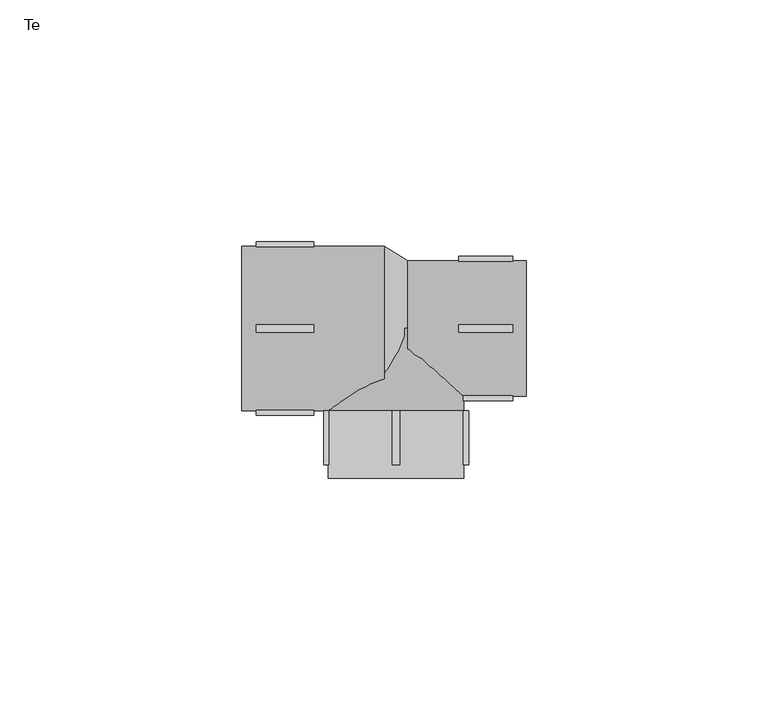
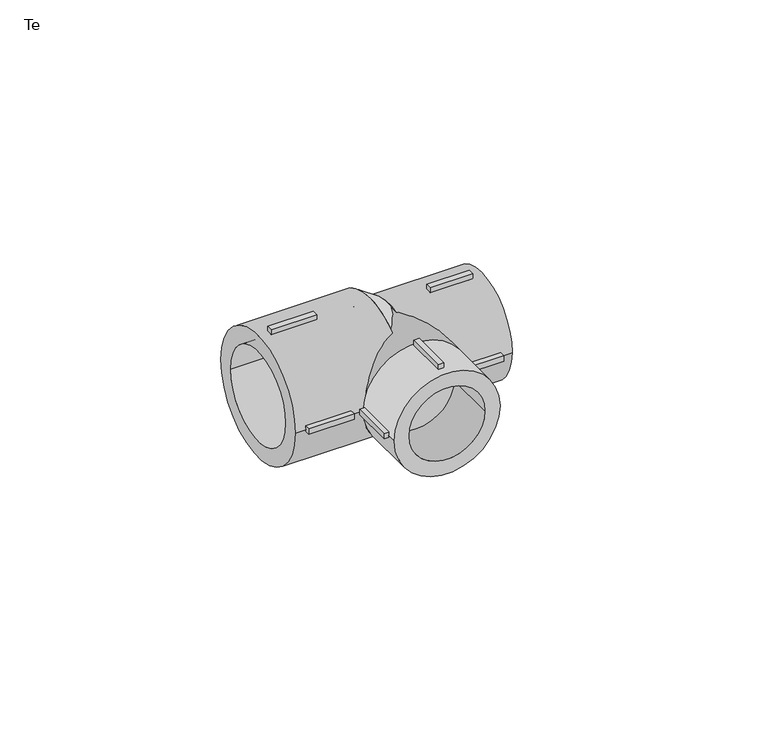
"""IFC4 building model written with IfcOpenShell, lengths in millimetres: pipe fitting geometry, EGB_VASEN_ PPR_Te WXR300_Te reducida WXR310 : Te."""

import ifcopenshell
import ifcopenshell.guid

model = None  # the IFC model being written
_history = None  # IfcOwnerHistory: only IFC2X3 demands one
_inside = {}  # id of a spatial element -> (the spatial element, [elements in it])
_under = {}  # id of a project, library or spatial element -> (it, [spatial elements below it])
_declared = {}  # id of a project -> (the project, [libraries it declares])
_typed = {}  # id of a type object -> (the type object, [elements of that type])
_made_of = {}  # id of a material, layer set ... -> (it, [elements and type objects made of it])


def new_model(schema):
    """Start an empty IFC model of exactly this schema.

    Asked for "IFC4X3", IfcOpenShell would pick the latest addendum, in which some entities
    have other attributes; the version numbers below select the first issue.
    IFC2X3 requires an IfcOwnerHistory on every rooted entity: one is made here for all.
    """
    global model, _history
    if schema == "IFC4X3":
        model = ifcopenshell.file(schema_version=(4, 3, 0, 0))
    else:
        model = ifcopenshell.file(schema=schema)
    _inside.clear()
    _under.clear()
    _declared.clear()
    _typed.clear()
    _made_of.clear()
    _history = None
    if model.schema == "IFC2X3":
        org = make("IfcOrganization", Name="unknown")
        user = make(
            "IfcPersonAndOrganization",
            ThePerson=make("IfcPerson", FamilyName="unknown"),
            TheOrganization=org,
        )
        app = make(
            "IfcApplication",
            ApplicationDeveloper=org,
            Version="unknown",
            ApplicationFullName="unknown",
            ApplicationIdentifier="unknown",
        )
        _history = make(
            "IfcOwnerHistory",
            OwningUser=user,
            OwningApplication=app,
            ChangeAction="ADDED",
            CreationDate=0,
        )
    return model


def make(cls, **values):
    """One entity of the class cls with the attributes given. An attribute that is None is left unset."""
    return model.create_entity(
        cls, **{name: value for name, value in values.items() if value is not None}
    )


def rooted(cls, **values):
    """An entity with a GlobalId (a new one), such as an element, a storey or a relation."""
    return make(cls, GlobalId=ifcopenshell.guid.new(), OwnerHistory=_history, **values)


def si_unit(unit_type, name, prefix=None):
    """IfcSIUnit, for example si_unit("LENGTHUNIT", "METRE", prefix="MILLI")."""
    return make("IfcSIUnit", UnitType=unit_type, Prefix=prefix, Name=name)


def assignment(units):
    """IfcUnitAssignment: the units of a project."""
    return None if units is None else make("IfcUnitAssignment", Units=units)


def point(xyz):
    """IfcCartesianPoint."""
    return None if xyz is None else make("IfcCartesianPoint", Coordinates=xyz)


def direction(xyz):
    """IfcDirection."""
    return None if xyz is None else make("IfcDirection", DirectionRatios=xyz)


def frame(location, z_axis=None, x_axis=None):
    """IfcAxis2Placement3D, a coordinate frame: its origin and axes. An axis left out is left unset."""
    return make(
        "IfcAxis2Placement3D",
        Location=point(location),
        Axis=direction(z_axis),
        RefDirection=direction(x_axis),
    )


def frame_2d(location, x_axis=None):
    """IfcAxis2Placement2D, a coordinate frame in the plane: its origin and x axis."""
    return make(
        "IfcAxis2Placement2D", Location=point(location), RefDirection=direction(x_axis)
    )


def origin():
    """The frame at (0, 0, 0) with its axes left unset."""
    return frame((0.0, 0.0, 0.0))


def origin_2d():
    """The frame at (0, 0) in the plane with its x axis left unset."""
    return frame_2d((0.0, 0.0))


def place(relative_to, where):
    """IfcLocalPlacement: puts the frame where relative to a parent placement (None: the world)."""
    return make(
        "IfcLocalPlacement", PlacementRelTo=relative_to, RelativePlacement=where
    )


def context(
    kind, dimensions, precision=None, world=None, true_north=None, identifier=None
):
    """IfcGeometricRepresentationContext, for example the 3D "Model" context."""
    return make(
        "IfcGeometricRepresentationContext",
        ContextIdentifier=identifier,
        ContextType=kind,
        CoordinateSpaceDimension=dimensions,
        Precision=precision,
        WorldCoordinateSystem=world,
        TrueNorth=true_north,
    )


def project(units=None, contexts=None):
    """IfcProject with its units and contexts."""
    return rooted(
        "IfcProject",
        Name="project",
        RepresentationContexts=contexts,
        UnitsInContext=assignment(units),
    )


def spatial(cls, under=None, at=None, **own):
    """A site, building, storey or space (cls), placed at a placement, below another one or the project."""
    s = rooted(cls, ObjectPlacement=at, **own)
    if under is not None:
        _under.setdefault(under.id(), (under, []))[1].append(s)
    return s


def polyline(points):
    """IfcPolyline through the points."""
    return make("IfcPolyline", Points=[point(p) for p in points])


def circle_curve(where, radius):
    """IfcCircle in the frame where."""
    return make("IfcCircle", Position=where, Radius=radius)


def trimmed(basis, trim1, trim2, sense, master):
    """IfcTrimmedCurve: the piece of a basis curve between two trims."""
    return make(
        "IfcTrimmedCurve",
        BasisCurve=basis,
        Trim1=trim1,
        Trim2=trim2,
        SenseAgreement=sense,
        MasterRepresentation=master,
    )


def segment(curve, same_sense, transition):
    """IfcCompositeCurveSegment."""
    return make(
        "IfcCompositeCurveSegment",
        Transition=transition,
        SameSense=same_sense,
        ParentCurve=curve,
    )


def composite_curve(segments, self_intersect=None):
    """IfcCompositeCurve: segments joined end to end."""
    return make("IfcCompositeCurve", Segments=segments, SelfIntersect=self_intersect)


def outline(outer, holes=None, kind="AREA"):
    """IfcArbitraryClosedProfileDef: a profile drawn as a closed curve; with holes, ...WithVoids."""
    if holes is None:
        return make("IfcArbitraryClosedProfileDef", ProfileType=kind, OuterCurve=outer)
    return make(
        "IfcArbitraryProfileDefWithVoids",
        ProfileType=kind,
        OuterCurve=outer,
        InnerCurves=holes,
    )


def extrude(swept, where, along, depth):
    """IfcExtrudedAreaSolid: the profile swept, set in the frame where, extruded along a direction by depth."""
    return make(
        "IfcExtrudedAreaSolid",
        SweptArea=swept,
        Position=where,
        ExtrudedDirection=direction(along),
        Depth=depth,
    )


def shape(context_of_items, identifier, shape_type, items):
    """IfcShapeRepresentation: the items that make up one representation, for example the "Body"."""
    return make(
        "IfcShapeRepresentation",
        ContextOfItems=context_of_items,
        RepresentationIdentifier=identifier,
        RepresentationType=shape_type,
        Items=items,
    )


def source(mapping_origin, context_of_items, identifier, shape_type, items):
    """IfcRepresentationMap: a shape defined once, which mapped items show again and again."""
    return make(
        "IfcRepresentationMap",
        MappingOrigin=mapping_origin,
        MappedRepresentation=shape(context_of_items, identifier, shape_type, items),
    )


def transform(
    local_origin,
    x_axis=None,
    y_axis=None,
    z_axis=None,
    scale=None,
    scale2=None,
    scale3=None,
    uniform=True,
):
    """IfcCartesianTransformationOperator3D, or its non-uniform kind. x_axis, y_axis, z_axis: its Axis1, 2, 3."""
    if uniform:
        return make(
            "IfcCartesianTransformationOperator3D",
            Axis1=direction(x_axis),
            Axis2=direction(y_axis),
            LocalOrigin=point(local_origin),
            Scale=scale,
            Axis3=direction(z_axis),
        )
    return make(
        "IfcCartesianTransformationOperator3DnonUniform",
        Axis1=direction(x_axis),
        Axis2=direction(y_axis),
        LocalOrigin=point(local_origin),
        Scale=scale,
        Axis3=direction(z_axis),
        Scale2=scale2,
        Scale3=scale3,
    )


def mapped(mapping_source, mapping_target):
    """IfcMappedItem: shows the shape of a source again, moved by a transform."""
    return make(
        "IfcMappedItem", MappingSource=mapping_source, MappingTarget=mapping_target
    )


def made_of(thing, what):
    """Note that an element or type object is made of a material, layer set ...; save() writes the relation."""
    if what is not None:
        _made_of.setdefault(what.id(), (what, []))[1].append(thing)
    return thing


def element(
    cls,
    number,
    at=None,
    inside=None,
    cuts=None,
    type_object=None,
    material=None,
    context=None,
    identifier="Body",
    shape_type=None,
    held_by="IfcProductDefinitionShape",
    body=None,
    shapes=None,
    **own,
):
    """One element of the class cls, such as IfcWall. Its Tag is "e" and its number.

    at: its placement. inside: the storey or other place that contains it. cuts: it is an
    opening in that element (IfcRelVoidsElement). A single representation is given by context,
    identifier, shape_type and body (its items); several are given by shapes. held_by: the class
    of the entity that holds the representations. save() writes the other relations.
    """
    e = rooted(cls, Tag="e%d" % number, ObjectPlacement=at, **own)
    if body is not None:
        shapes = [shape(context, identifier, shape_type, body)]
    if shapes is not None:
        e.Representation = make(held_by, Representations=shapes)
    if inside is not None:
        _inside.setdefault(inside.id(), (inside, []))[1].append(e)
    if cuts is not None:
        rooted(
            "IfcRelVoidsElement", RelatingBuildingElement=cuts, RelatedOpeningElement=e
        )
    if type_object is not None:
        _typed.setdefault(type_object.id(), (type_object, []))[1].append(e)
    return made_of(e, material)


def aggregate(whole, parts):
    """IfcRelAggregates: a whole, such as a stair, and the parts it consists of."""
    return rooted("IfcRelAggregates", RelatingObject=whole, RelatedObjects=parts)


def save(model, path):
    """Write the relations noted so far, then the file.

    IfcRelAggregates (storeys below a building ...), IfcRelContainedInSpatialStructure (elements
    in a storey), IfcRelDefinesByType, IfcRelAssociatesMaterial and IfcRelDeclares: one each for
    every whole, place, type object, material and project.
    """
    for whole, parts in _under.values():
        aggregate(whole, parts)
    for where, things in _inside.values():
        rooted(
            "IfcRelContainedInSpatialStructure",
            RelatedElements=things,
            RelatingStructure=where,
        )
    for kind, things in _typed.values():
        rooted("IfcRelDefinesByType", RelatedObjects=things, RelatingType=kind)
    for what, things in _made_of.values():
        rooted("IfcRelAssociatesMaterial", RelatedObjects=things, RelatingMaterial=what)
    for by, libraries in _declared.values():
        rooted("IfcRelDeclares", RelatingContext=by, RelatedDefinitions=libraries)
    model.write(path)


def plane_surface(at):
    """IfcPlane: the flat surface through the origin of the frame at, square to its z axis."""
    return make("IfcPlane", Position=at)


def revolved_surface(curve, axis_point, axis_direction):
    """IfcSurfaceOfRevolution: the curve turned about the line through axis_point along axis_direction."""
    return make(
        "IfcSurfaceOfRevolution",
        SweptCurve=make("IfcArbitraryOpenProfileDef", ProfileType="CURVE", Curve=curve),
        AxisPosition=make("IfcAxis1Placement", Location=point(axis_point), Axis=direction(axis_direction)),
    )


def advanced_brep(points, edges, surfaces, faces):
    """IfcAdvancedBrep: a solid bounded by faces that lie on surfaces and meet in shared edges.

    An edge is (start, end): straight between two places in points (the first is 0);
    or (start, end, curve); or (start, end, curve, False) where it runs against its curve.
    A face is (place in surfaces, loops), or (place, loops, False) where it looks against
    its surface's normal. A loop lists edges by number (the first is 1), with a minus sign
    where the edge is run from its end to its start. The first loop is the outer one.
    """
    corners = [point(p) for p in points]
    vertices = [make("IfcVertexPoint", VertexGeometry=c) for c in corners]
    made = []
    for start, end, *more in edges:
        made.append(
            make(
                "IfcEdgeCurve",
                EdgeStart=vertices[start],
                EdgeEnd=vertices[end],
                EdgeGeometry=more[0] if more else make("IfcPolyline", Points=[corners[start], corners[end]]),
                SameSense=more[1] if len(more) > 1 else True,
            )
        )
    hull = []
    for where, loops, *sense in faces:
        bounds = []
        for j, loop in enumerate(loops):
            ring = [make("IfcOrientedEdge", EdgeElement=made[abs(k) - 1], Orientation=k > 0) for k in loop]
            bounds.append(
                make(
                    "IfcFaceOuterBound" if j == 0 else "IfcFaceBound",
                    Bound=make("IfcEdgeLoop", EdgeList=ring),
                    Orientation=True,
                )
            )
        hull.append(make("IfcAdvancedFace", Bounds=bounds, FaceSurface=surfaces[where], SameSense=sense[0] if sense else True))
    return make("IfcAdvancedBrep", Outer=make("IfcClosedShell", CfsFaces=hull))


def te_86af53af(model_context):
    return source(origin(), model_context, "Body", "SolidModel", [
        extrude(outline(polyline([(-0.75, -17.0), (0.75, -17.0), (0.75, -28.2), (-0.75, -28.2), (-0.75, -17.0)])), frame((0.0, 0.0, 13.0), z_axis=(0.0, 0.0, 1.0), x_axis=(1.0, 0.0, 0.0)), (0.0, 0.0, 1.0), 2.0),
        extrude(outline(polyline([(-0.75, -17.0), (0.75, -17.0), (0.75, -28.2), (-0.75, -28.2), (-0.75, -17.0)])), frame((0.0, 0.0, -15.0), z_axis=(0.0, 0.0, 1.0), x_axis=(1.0, 0.0, 0.0)), (0.0, 0.0, 1.0), 2.0),
        extrude(outline(polyline([(13.0, -17.0), (15.0, -17.0), (15.0, -28.2), (13.0, -28.2), (13.0, -17.0)])), frame((0.0, 0.0, -0.75), z_axis=(0.0, 0.0, 1.0), x_axis=(1.0, 0.0, 0.0)), (0.0, 0.0, 1.0), 1.5),
        extrude(outline(polyline([(-15.0, -17.0), (-13.0, -17.0), (-13.0, -28.2), (-15.0, -28.2), (-15.0, -17.0)])), frame((0.0, 0.0, -0.75), z_axis=(0.0, 0.0, 1.0), x_axis=(1.0, 0.0, 0.0)), (0.0, 0.0, 1.0), 1.5),
        extrude(outline(polyline([(13.0, -0.75), (13.0, 0.75), (24.2, 0.75), (24.2, -0.75), (13.0, -0.75)])), frame((0.0, 0.0, 13.0), z_axis=(0.0, 0.0, 1.0), x_axis=(1.0, 0.0, 0.0)), (0.0, 0.0, 1.0), 2.0),
        extrude(outline(polyline([(13.0, -0.75), (13.0, 0.75), (24.2, 0.75), (24.2, -0.75), (13.0, -0.75)])), frame((0.0, 0.0, -15.0), z_axis=(0.0, 0.0, 1.0), x_axis=(1.0, 0.0, 0.0)), (0.0, 0.0, 1.0), 2.0),
        extrude(outline(polyline([(13.0, 13.0), (13.0, 15.0), (24.2, 15.0), (24.2, 13.0), (13.0, 13.0)])), frame((0.0, 0.0, -0.75), z_axis=(0.0, 0.0, 1.0), x_axis=(1.0, 0.0, 0.0)), (0.0, 0.0, 1.0), 1.5),
        extrude(outline(polyline([(13.0, -15.0), (13.0, -13.0), (24.2, -13.0), (24.2, -15.0), (13.0, -15.0)])), frame((0.0, 0.0, -0.75), z_axis=(0.0, 0.0, 1.0), x_axis=(1.0, 0.0, 0.0)), (0.0, 0.0, 1.0), 1.5),
        extrude(outline(polyline([(-17.0, 0.75), (-17.0, -0.75), (-29.0, -0.75), (-29.0, 0.75), (-17.0, 0.75)])), frame((0.0, 0.0, 16.0), z_axis=(0.0, 0.0, 1.0), x_axis=(1.0, 0.0, 0.0)), (0.0, 0.0, 1.0), 2.0),
        extrude(outline(polyline([(-17.0, 0.75), (-17.0, -0.75), (-29.0, -0.75), (-29.0, 0.75), (-17.0, 0.75)])), frame((0.0, 0.0, -18.0), z_axis=(0.0, 0.0, 1.0), x_axis=(1.0, 0.0, 0.0)), (0.0, 0.0, 1.0), 2.0),
        extrude(outline(polyline([(-17.0, 18.0), (-17.0, 16.0), (-29.0, 16.0), (-29.0, 18.0), (-17.0, 18.0)])), frame((0.0, 0.0, -0.75), z_axis=(0.0, 0.0, 1.0), x_axis=(1.0, 0.0, 0.0)), (0.0, 0.0, 1.0), 1.5),
        extrude(outline(polyline([(-17.0, -16.0), (-17.0, -18.0), (-29.0, -18.0), (-29.0, -16.0), (-17.0, -16.0)])), frame((0.0, 0.0, -0.75), z_axis=(0.0, 0.0, 1.0), x_axis=(1.0, 0.0, 0.0)), (0.0, 0.0, 1.0), 1.5),
        extrude(outline(composite_curve([segment(trimmed(circle_curve(origin_2d(), 14.0), [point((0.0, 14.0))], [point((0.0, -14.0))], False, "CARTESIAN"), True, "CONTINUOUS"), segment(trimmed(circle_curve(origin_2d(), 14.0), [point((0.0, -14.0))], [point((0.0, 14.0))], False, "CARTESIAN"), True, "CONTINUOUS")], self_intersect=False), holes=[composite_curve([segment(trimmed(circle_curve(origin_2d(), 10.0), [point((0.0, 10.0))], [point((0.0, -10.0))], True, "CARTESIAN"), True, "CONTINUOUS"), segment(trimmed(circle_curve(origin_2d(), 10.0), [point((0.0, -10.0))], [point((0.0, 10.0))], True, "CARTESIAN"), True, "CONTINUOUS")], self_intersect=False)]), frame((0.0, -31.0, 0.0), z_axis=(0.0, 1.0, 0.0), x_axis=(0.0, 0.0, 1.0)), (0.0, 0.0, 1.0), 14.0),
        extrude(outline(composite_curve([segment(trimmed(circle_curve(origin_2d(), 14.0), [point((-14.0, 0.0))], [point((14.0, 0.0))], False, "CARTESIAN"), True, "CONTINUOUS"), segment(trimmed(circle_curve(origin_2d(), 14.0), [point((14.0, 0.0))], [point((-14.0, 0.0))], False, "CARTESIAN"), True, "CONTINUOUS")], self_intersect=False), holes=[composite_curve([segment(trimmed(circle_curve(origin_2d(), 10.0), [point((-10.0, 0.0))], [point((10.0, 0.0))], True, "CARTESIAN"), True, "CONTINUOUS"), segment(trimmed(circle_curve(origin_2d(), 10.0), [point((10.0, 0.0))], [point((-10.0, 0.0))], True, "CARTESIAN"), True, "CONTINUOUS")], self_intersect=False)]), frame((2.4, 0.0, 0.0), z_axis=(1.0, 0.0, 0.0), x_axis=(0.0, 1.0, 0.0)), (0.0, 0.0, 1.0), 24.6),
        extrude(outline(composite_curve([segment(trimmed(circle_curve(origin_2d(), 17.0), [point((-17.0, 0.0))], [point((17.0, 0.0))], False, "CARTESIAN"), True, "CONTINUOUS"), segment(trimmed(circle_curve(origin_2d(), 17.0), [point((17.0, 0.0))], [point((-17.0, 0.0))], False, "CARTESIAN"), True, "CONTINUOUS")], self_intersect=False), holes=[composite_curve([segment(trimmed(circle_curve(origin_2d(), 12.5), [point((-12.5, 0.0))], [point((12.5, 0.0))], True, "CARTESIAN"), True, "CONTINUOUS"), segment(trimmed(circle_curve(origin_2d(), 12.5), [point((12.5, 0.0))], [point((-12.5, 0.0))], True, "CARTESIAN"), True, "CONTINUOUS")], self_intersect=False)]), frame((-32.0, 0.0, 0.0), z_axis=(1.0, 0.0, 0.0), x_axis=(0.0, 1.0, 0.0)), (0.0, 0.0, 1.0), 29.6),
        extrude(outline(composite_curve([segment(trimmed(circle_curve(origin_2d(), 14.0), [point((0.0, 14.0))], [point((0.0, -14.0))], False, "CARTESIAN"), True, "CONTINUOUS"), segment(trimmed(circle_curve(origin_2d(), 14.0), [point((0.0, -14.0))], [point((0.0, 14.0))], False, "CARTESIAN"), True, "CONTINUOUS")], self_intersect=False)), frame((0.0, -17.0, 0.0), z_axis=(0.0, 1.0, 0.0), x_axis=(0.0, 0.0, 1.0)), (0.0, 0.0, 1.0), 17.0),
        advanced_brep(
        [(2.4, -14.0, 0.0), (2.4, 14.0, 0.0), (-2.4, -17.0, 0.0), (-2.4, 17.0, 0.0)],
        [
            (0, 1, circle_curve(frame((2.4, 0.0, 0.0), z_axis=(1.0, 0.0, 0.0), x_axis=(0.0, -1.0, 0.0)), 14.0)),
            (1, 0, circle_curve(frame((2.4, 0.0, 0.0), z_axis=(1.0, 0.0, 0.0), x_axis=(0.0, 1.0, 0.0)), 14.0)),
            (2, 3, circle_curve(frame((-2.4, 0.0, 0.0), z_axis=(-1.0, 0.0, 0.0), x_axis=(0.0, 1.0, 0.0)), 17.0)),
            (3, 2, circle_curve(frame((-2.4, 0.0, 0.0), z_axis=(-1.0, 0.0, 0.0), x_axis=(0.0, -1.0, 0.0)), 17.0)),
            (3, 1),
            (0, 2),
        ],
        [
            plane_surface(frame((2.4, 0.0, 0.0), z_axis=(1.0, 0.0, 0.0), x_axis=(0.0, 0.0, -1.0))),
            plane_surface(frame((-2.4, 0.0, 0.0), z_axis=(-1.0, 0.0, 0.0), x_axis=(0.0, 0.0, -1.0))),
            revolved_surface(polyline([(2.3999999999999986, -14.000000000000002, 0.0), (-2.3999999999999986, -17.0, 0.0)]), (24.8, 0.0, 0.0), (-1.0, 0.0, 0.0)),
            revolved_surface(polyline([(2.3999999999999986, 14.000000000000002, 0.0), (-2.3999999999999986, 17.0, 0.0)]), (24.8, 0.0, 0.0), (-1.0, 0.0, 0.0)),
        ],
        [
            (0, [[1, 2]]),
            (1, [[3, 4]]),
            (2, [[-4, 5, -1, 6]]),
            (3, [[-3, -6, -2, -5]]),
        ],
    ),
    ])


if __name__ == "__main__":
    model = new_model("IFC4")
    model_context = context("Model", 3, world=origin())
    ifc_project = project(units=[si_unit("LENGTHUNIT", "METRE", prefix="MILLI")], contexts=[model_context])
    site = spatial("IfcSite", under=ifc_project)
    building = spatial("IfcBuilding", under=site)
    placement = place(None, origin())
    te_shape = te_86af53af(model_context)
    element("IfcPipeFitting", 1, ObjectType="EGB_VASEN_ PPR_Te WXR300_Te reducida WXR310 : Te", at=placement, inside=building, context=model_context, shape_type="MappedRepresentation", body=[
        mapped(te_shape, transform((0.0, 0.0, 0.0), x_axis=(1.0, 0.0, 0.0), y_axis=(0.0, 1.0, 0.0), z_axis=(0.0, 0.0, 1.0))),
    ])
    save(model, "model.ifc")
